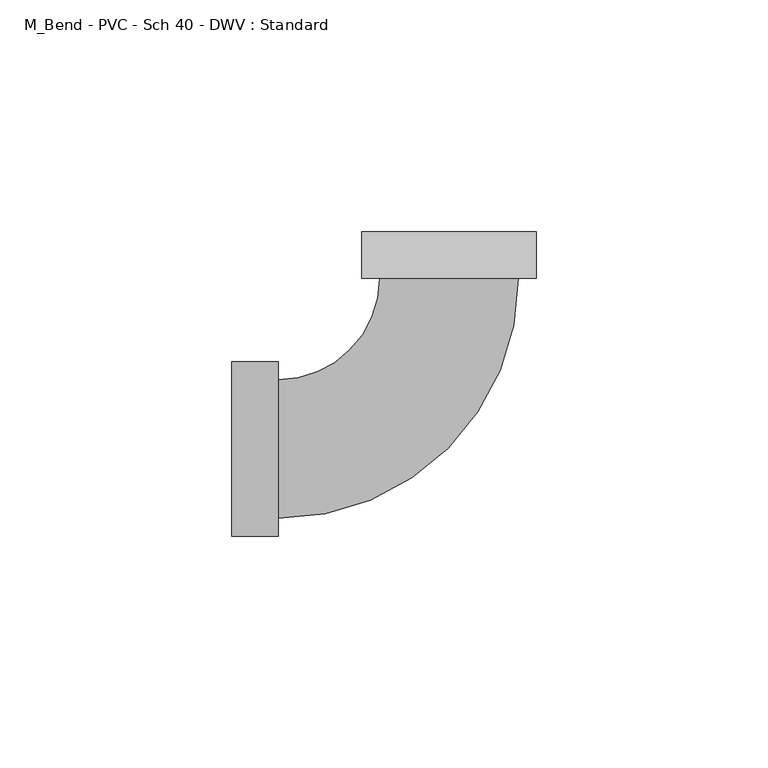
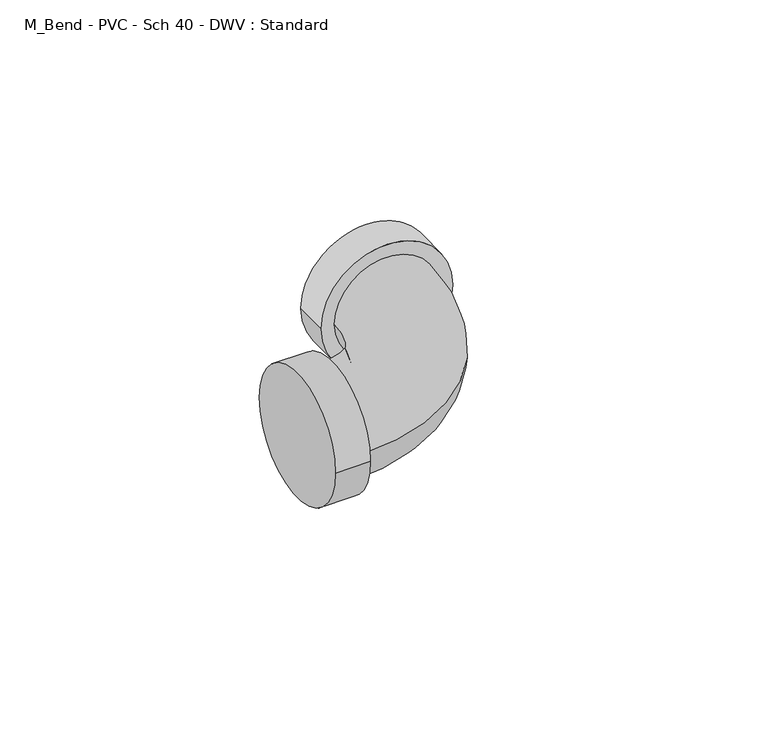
"""IFC4 building model written with IfcOpenShell, lengths in millimetres: pipe fitting geometry, M_Bend - PVC - Sch 40 - DWV : Standard."""

from ifc_helpers import new_model, si_unit, point, frame, origin, place, context, project, spatial, circle_curve, ellipse_curve, trimmed, source, transform, mapped, element, save
from ifc_brep_helpers import plane_surface, cylinder_surface, revolved_surface, advanced_brep


def m_bend_pvc_sch_40_dwv_standard_a3d693df(model_context):
    return source(origin(), model_context, "Body", "AdvancedBrep", [
        advanced_brep(
        [(-46.8140625, -18.7871094, 0.0), (-46.8140625, 18.7871094, 0.0), (-36.8140625, -18.7871094, 0.0), (-36.8140625, 18.7871094, 0.0), (-36.8140625, -14.9640625, 0.0), (-36.8140625, 14.9640625, 0.0), (-14.962712, 36.8146114, 0.0), (14.9654129, 36.8135135, 0.0), (18.7884598, 36.8133733, 0.0), (-18.7857589, 36.8147516, 0.0), (18.7888266, 46.8133733, 0.0), (-18.7853921, 46.8147516, 0.0)],
        [
            (0, 1, circle_curve(frame((-46.8140625, 0.0, 0.0), z_axis=(-1.0, 0.0, 0.0), x_axis=(0.0, 1.0, 0.0)), 18.7871094)),
            (1, 0, circle_curve(frame((-46.8140625, 0.0, 0.0), z_axis=(-1.0, 0.0, 0.0), x_axis=(0.0, 1.0, 0.0)), 18.7871094)),
            (2, 3, circle_curve(frame((-36.8140625, 0.0, 0.0), z_axis=(1.0, 0.0, 0.0), x_axis=(0.0, 1.0, 0.0)), 18.7871094)),
            (3, 2, circle_curve(frame((-36.8140625, 0.0, 0.0), z_axis=(1.0, 0.0, 0.0), x_axis=(0.0, 1.0, 0.0)), 18.7871094)),
            (4, 5, circle_curve(frame((-36.8140625, 0.0, 0.0), z_axis=(-1.0, 0.0, 0.0), x_axis=(0.0, 1.0, 0.0)), 14.9640625)),
            (5, 4, circle_curve(frame((-36.8140625, 0.0, 0.0), z_axis=(-1.0, 0.0, 0.0), x_axis=(0.0, 1.0, 0.0)), 14.9640625)),
            (0, 2),
            (3, 1),
            (6, 5, circle_curve(frame((-36.8140625, 36.815413, 0.0), z_axis=(0.0, 0.0, -1.0), x_axis=(0.0, -1.0, 0.0)), 21.8513505)),
            (4, 7, circle_curve(frame((-36.8140625, 36.815413, 0.0), z_axis=(0.0, 0.0, 1.0), x_axis=(0.0, -1.0, 0.0)), 51.7794755)),
            (7, 6, circle_curve(frame((0.0013505, 36.8140625, 0.0), z_axis=(-3.668300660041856e-05, -0.9999999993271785, 0.0), x_axis=(-0.9999999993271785, 3.668300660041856e-05, 0.0)), 14.9640625)),
            (6, 7, circle_curve(frame((0.0013505, 36.8140625, 0.0), z_axis=(-3.668300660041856e-05, -0.9999999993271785, 0.0), x_axis=(-0.9999999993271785, 3.668300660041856e-05, 0.0)), 14.9640625)),
            (8, 9, circle_curve(frame((0.0013505, 36.8140625, 0.0), z_axis=(-3.668300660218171e-05, -0.9999999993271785, 0.0), x_axis=(-0.9999999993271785, 3.668300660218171e-05, 0.0)), 18.7871094)),
            (9, 8, circle_curve(frame((0.0013505, 36.8140625, 0.0), z_axis=(-3.668300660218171e-05, -0.9999999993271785, 0.0), x_axis=(-0.9999999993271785, 3.668300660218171e-05, 0.0)), 18.7871094)),
            (10, 11, circle_curve(frame((0.0017173, 46.8140625, 0.0), z_axis=(3.668300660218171e-05, 0.9999999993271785, 0.0), x_axis=(-0.9999999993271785, 3.668300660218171e-05, 0.0)), 18.7871094)),
            (11, 10, circle_curve(frame((0.0017173, 46.8140625, 0.0), z_axis=(3.668300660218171e-05, 0.9999999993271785, 0.0), x_axis=(-0.9999999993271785, 3.668300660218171e-05, 0.0)), 18.7871094)),
            (8, 10),
            (11, 9),
        ],
        [
            plane_surface(frame((-46.8140625, 0.0, 0.0), z_axis=(-1.0, 0.0, 0.0), x_axis=(0.0, 0.0, 1.0))),
            plane_surface(frame((-36.8140625, 0.0, 0.0), z_axis=(1.0, 0.0, 0.0), x_axis=(0.0, 0.0, 1.0))),
            cylinder_surface(frame((-46.8140625, 0.0, 0.0), z_axis=(-1.0, 0.0, 0.0), x_axis=(0.0, 1.0, 0.0)), 18.7871094),
            revolved_surface(trimmed(ellipse_curve(frame((-36.8140625, 0.0, 0.0), z_axis=(-1.0, 0.0, 0.0), x_axis=(0.0, 1.0, 0.0)), 14.9640625, 14.9640625), [point((-36.8140625, -14.9640625, 0.0))], [point((-36.8140625, 14.9640625, 0.0))], True, "CARTESIAN"), (-36.8140625, 36.815413, 0.0), (0.0, 0.0, 1.0)),
            revolved_surface(trimmed(ellipse_curve(frame((-36.8140625, 0.0, 0.0), z_axis=(-1.0, 0.0, 0.0), x_axis=(0.0, 1.0, 0.0)), 14.9640625, 14.9640625), [point((-36.8140625, 14.9640625, 0.0))], [point((-36.8140625, -14.9640625, 0.0))], True, "CARTESIAN"), (-36.8140625, 36.815413, 0.0), (0.0, 0.0, 1.0)),
            plane_surface(frame((0.0013505, 36.8140625, 0.0), z_axis=(-3.668300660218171e-05, -0.9999999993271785, 0.0), x_axis=(0.0, 0.0, 1.0))),
            plane_surface(frame((0.0017173, 46.8140625, 0.0), z_axis=(3.668300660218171e-05, 0.9999999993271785, 0.0), x_axis=(0.0, 0.0, 1.0))),
            cylinder_surface(frame((0.0013505, 36.8140625, 0.0), z_axis=(-3.668300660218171e-05, -0.9999999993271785, 0.0), x_axis=(-0.9999999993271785, 3.668300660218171e-05, 0.0)), 18.7871094),
        ],
        [
            (0, [[1, 2]]),
            (1, [[3, 4], [5, 6]]),
            (2, [[-1, 7, -4, 8]]),
            (2, [[-2, -8, -3, -7]]),
            (3, [[9, -5, 10, 11]]),
            (4, [[-9, 12, -10, -6]]),
            (5, [[13, 14], [-11, -12]]),
            (6, [[15, 16]]),
            (7, [[-13, 17, -16, 18]]),
            (7, [[-14, -18, -15, -17]]),
        ],
    ),
    ])


if __name__ == "__main__":
    model = new_model("IFC4")
    model_context = context("Model", 3, world=origin())
    ifc_project = project(units=[si_unit("LENGTHUNIT", "METRE", prefix="MILLI")], contexts=[model_context])
    site = spatial("IfcSite", under=ifc_project)
    building = spatial("IfcBuilding", under=site)
    placement = place(None, origin())
    m_bend_pvc_sch_40_dwv_standard_shape = m_bend_pvc_sch_40_dwv_standard_a3d693df(model_context)
    element("IfcPipeFitting", 1, ObjectType="M_Bend - PVC - Sch 40 - DWV : Standard", at=placement, inside=building, context=model_context, shape_type="MappedRepresentation", body=[
        mapped(m_bend_pvc_sch_40_dwv_standard_shape, transform((0.0, 0.0, 0.0), x_axis=(1.0, 0.0, 0.0), y_axis=(0.0, 1.0, 0.0), z_axis=(0.0, 0.0, 1.0))),
    ])
    save(model, "model.ifc")
